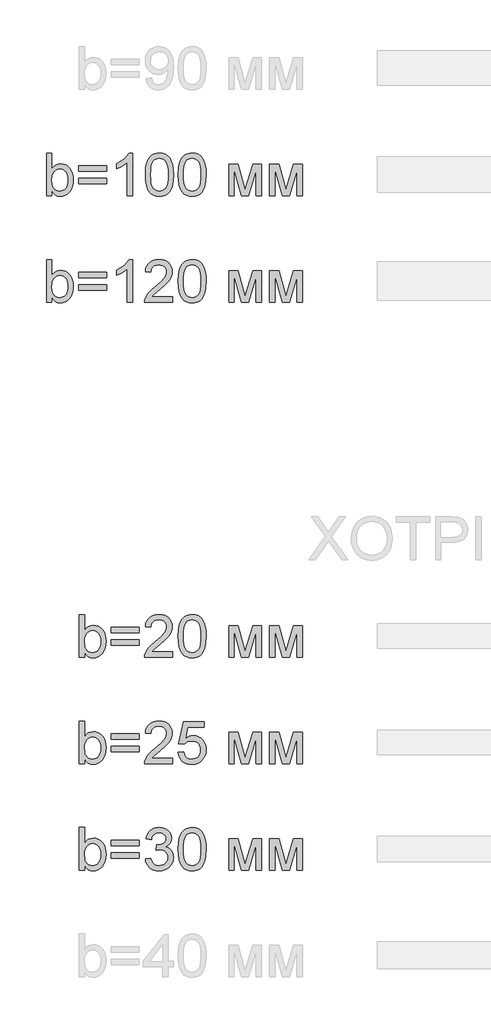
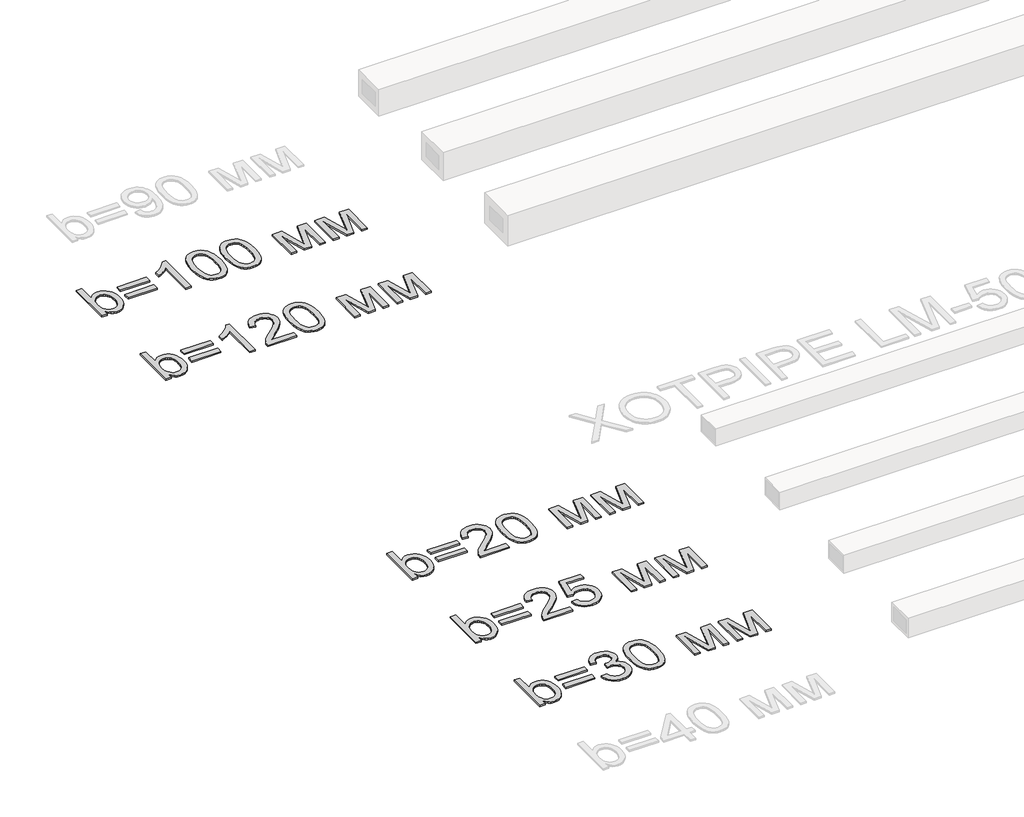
# One storey, part 78 of 86: 5 proxies.
"""IFC4 building model written with IfcOpenShell, lengths in millimetres."""

import ifcopenshell
import ifcopenshell.guid

model = None  # the IFC model being written
_history = None  # IfcOwnerHistory: only IFC2X3 demands one
_inside = {}  # id of a spatial element -> (the spatial element, [elements in it])
_under = {}  # id of a project, library or spatial element -> (it, [spatial elements below it])
_declared = {}  # id of a project -> (the project, [libraries it declares])
_typed = {}  # id of a type object -> (the type object, [elements of that type])
_made_of = {}  # id of a material, layer set ... -> (it, [elements and type objects made of it])


def new_model(schema):
    """Start an empty IFC model of exactly this schema.

    Asked for "IFC4X3", IfcOpenShell would pick the latest addendum, in which some entities
    have other attributes; the version numbers below select the first issue.
    IFC2X3 requires an IfcOwnerHistory on every rooted entity: one is made here for all.
    """
    global model, _history
    if schema == "IFC4X3":
        model = ifcopenshell.file(schema_version=(4, 3, 0, 0))
    else:
        model = ifcopenshell.file(schema=schema)
    _inside.clear()
    _under.clear()
    _declared.clear()
    _typed.clear()
    _made_of.clear()
    _history = None
    if model.schema == "IFC2X3":
        org = make("IfcOrganization", Name="unknown")
        user = make(
            "IfcPersonAndOrganization",
            ThePerson=make("IfcPerson", FamilyName="unknown"),
            TheOrganization=org,
        )
        app = make(
            "IfcApplication",
            ApplicationDeveloper=org,
            Version="unknown",
            ApplicationFullName="unknown",
            ApplicationIdentifier="unknown",
        )
        _history = make(
            "IfcOwnerHistory",
            OwningUser=user,
            OwningApplication=app,
            ChangeAction="ADDED",
            CreationDate=0,
        )
    return model


def make(cls, **values):
    """One entity of the class cls with the attributes given. An attribute that is None is left unset."""
    return model.create_entity(
        cls, **{name: value for name, value in values.items() if value is not None}
    )


def rooted(cls, **values):
    """An entity with a GlobalId (a new one), such as an element, a storey or a relation."""
    return make(cls, GlobalId=ifcopenshell.guid.new(), OwnerHistory=_history, **values)


def si_unit(unit_type, name, prefix=None):
    """IfcSIUnit, for example si_unit("LENGTHUNIT", "METRE", prefix="MILLI")."""
    return make("IfcSIUnit", UnitType=unit_type, Prefix=prefix, Name=name)


def assignment(units):
    """IfcUnitAssignment: the units of a project."""
    return None if units is None else make("IfcUnitAssignment", Units=units)


def point(xyz):
    """IfcCartesianPoint."""
    return None if xyz is None else make("IfcCartesianPoint", Coordinates=xyz)


def direction(xyz):
    """IfcDirection."""
    return None if xyz is None else make("IfcDirection", DirectionRatios=xyz)


def frame(location, z_axis=None, x_axis=None):
    """IfcAxis2Placement3D, a coordinate frame: its origin and axes. An axis left out is left unset."""
    return make(
        "IfcAxis2Placement3D",
        Location=point(location),
        Axis=direction(z_axis),
        RefDirection=direction(x_axis),
    )


def origin():
    """The frame at (0, 0, 0) with its axes left unset."""
    return frame((0.0, 0.0, 0.0))


def origin_with_axes():
    """The frame at (0, 0, 0) with the z axis (0, 0, 1) and the x axis (1, 0, 0) written out."""
    return frame((0.0, 0.0, 0.0), z_axis=(0.0, 0.0, 1.0), x_axis=(1.0, 0.0, 0.0))


def place(relative_to, where):
    """IfcLocalPlacement: puts the frame where relative to a parent placement (None: the world)."""
    return make(
        "IfcLocalPlacement", PlacementRelTo=relative_to, RelativePlacement=where
    )


def context(
    kind, dimensions, precision=None, world=None, true_north=None, identifier=None
):
    """IfcGeometricRepresentationContext, for example the 3D "Model" context."""
    return make(
        "IfcGeometricRepresentationContext",
        ContextIdentifier=identifier,
        ContextType=kind,
        CoordinateSpaceDimension=dimensions,
        Precision=precision,
        WorldCoordinateSystem=world,
        TrueNorth=true_north,
    )


def project(units=None, contexts=None):
    """IfcProject with its units and contexts."""
    return rooted(
        "IfcProject",
        Name="project",
        RepresentationContexts=contexts,
        UnitsInContext=assignment(units),
    )


def spatial(cls, under=None, at=None, **own):
    """A site, building, storey or space (cls), placed at a placement, below another one or the project."""
    s = rooted(cls, ObjectPlacement=at, **own)
    if under is not None:
        _under.setdefault(under.id(), (under, []))[1].append(s)
    return s


def polyline(points):
    """IfcPolyline through the points."""
    return make("IfcPolyline", Points=[point(p) for p in points])


def outline(outer, holes=None, kind="AREA"):
    """IfcArbitraryClosedProfileDef: a profile drawn as a closed curve; with holes, ...WithVoids."""
    if holes is None:
        return make("IfcArbitraryClosedProfileDef", ProfileType=kind, OuterCurve=outer)
    return make(
        "IfcArbitraryProfileDefWithVoids",
        ProfileType=kind,
        OuterCurve=outer,
        InnerCurves=holes,
    )


def extrude(swept, where, along, depth):
    """IfcExtrudedAreaSolid: the profile swept, set in the frame where, extruded along a direction by depth."""
    return make(
        "IfcExtrudedAreaSolid",
        SweptArea=swept,
        Position=where,
        ExtrudedDirection=direction(along),
        Depth=depth,
    )


def shape(context_of_items, identifier, shape_type, items):
    """IfcShapeRepresentation: the items that make up one representation, for example the "Body"."""
    return make(
        "IfcShapeRepresentation",
        ContextOfItems=context_of_items,
        RepresentationIdentifier=identifier,
        RepresentationType=shape_type,
        Items=items,
    )


def made_of(thing, what):
    """Note that an element or type object is made of a material, layer set ...; save() writes the relation."""
    if what is not None:
        _made_of.setdefault(what.id(), (what, []))[1].append(thing)
    return thing


def element(
    cls,
    number,
    at=None,
    inside=None,
    cuts=None,
    type_object=None,
    material=None,
    context=None,
    identifier="Body",
    shape_type=None,
    held_by="IfcProductDefinitionShape",
    body=None,
    shapes=None,
    **own,
):
    """One element of the class cls, such as IfcWall. Its Tag is "e" and its number.

    at: its placement. inside: the storey or other place that contains it. cuts: it is an
    opening in that element (IfcRelVoidsElement). A single representation is given by context,
    identifier, shape_type and body (its items); several are given by shapes. held_by: the class
    of the entity that holds the representations. save() writes the other relations.
    """
    e = rooted(cls, Tag="e%d" % number, ObjectPlacement=at, **own)
    if body is not None:
        shapes = [shape(context, identifier, shape_type, body)]
    if shapes is not None:
        e.Representation = make(held_by, Representations=shapes)
    if inside is not None:
        _inside.setdefault(inside.id(), (inside, []))[1].append(e)
    if cuts is not None:
        rooted(
            "IfcRelVoidsElement", RelatingBuildingElement=cuts, RelatedOpeningElement=e
        )
    if type_object is not None:
        _typed.setdefault(type_object.id(), (type_object, []))[1].append(e)
    return made_of(e, material)


def aggregate(whole, parts):
    """IfcRelAggregates: a whole, such as a stair, and the parts it consists of."""
    return rooted("IfcRelAggregates", RelatingObject=whole, RelatedObjects=parts)


def save(model, path):
    """Write the relations noted so far, then the file.

    IfcRelAggregates (storeys below a building ...), IfcRelContainedInSpatialStructure (elements
    in a storey), IfcRelDefinesByType, IfcRelAssociatesMaterial and IfcRelDeclares: one each for
    every whole, place, type object, material and project.
    """
    for whole, parts in _under.values():
        aggregate(whole, parts)
    for where, things in _inside.values():
        rooted(
            "IfcRelContainedInSpatialStructure",
            RelatedElements=things,
            RelatingStructure=where,
        )
    for kind, things in _typed.values():
        rooted("IfcRelDefinesByType", RelatedObjects=things, RelatingType=kind)
    for what, things in _made_of.values():
        rooted("IfcRelAssociatesMaterial", RelatedObjects=things, RelatingMaterial=what)
    for by, libraries in _declared.values():
        rooted("IfcRelDeclares", RelatingContext=by, RelatedDefinitions=libraries)
    model.write(path)


model = new_model("IFC4")

# Units and contexts
model_context = context("Model", 3, world=origin())
ifc_project = project(units=[si_unit("LENGTHUNIT", "METRE", prefix="MILLI")], contexts=[model_context])

# Site, building, storey
site = spatial("IfcSite", under=ifc_project)
building = spatial("IfcBuilding", under=site)
storey = spatial("IfcBuildingStorey", under=building, Name="Уровень 1", Elevation=0.0)

# Proxies
placement = place(None, origin())
element("IfcBuildingElementProxy", 1, Name="Текст модели 1", ObjectType="Текст модели 1", at=placement, inside=storey, context=model_context, shape_type="SweptSolid", body=[
    extrude(outline(polyline([(89309.5356698, 75669.2937088), (89234.1934372, 75669.2937088), (89234.1934372, 76272.0315697), (89309.5356698, 76272.0315697), (89309.5356698, 76048.5064694), (89334.3125222, 76080.3742473), (89362.2899479, 76103.1369457), (89393.467947, 76116.7945648), (89427.8465194, 76121.3471045), (89466.6580699, 76117.2452202), (89503.3359048, 76104.9395675), (89535.7830968, 76085.2026984), (89561.9027185, 76058.8071653), (89582.3753515, 76026.0104854), (89597.8815776, 75987.0701762), (89607.6488446, 75943.6049185), (89610.9046002, 75897.233393), (89607.5338815, 75843.7249568), (89597.4217251, 75796.6544555), (89580.5681312, 75756.0218892), (89556.9730997, 75721.8272577), (89528.6507846, 75694.7235517), (89497.6153398, 75675.3637617), (89463.8667653, 75663.7478877), (89427.405061, 75659.8759297), (89391.8952515, 75664.8699278), (89360.4137497, 75679.8519221), (89332.9605558, 75704.8219125), (89309.5356698, 75739.7798991), (89309.5356698, 75669.2937088)]), holes=[polyline([(89309.5356698, 75893.7017259), (89314.6860177, 75830.8674811), (89321.1239526, 75807.065516), (89330.1370615, 75788.3403224), (89348.3932055, 75765.0993774), (89369.6107996, 75748.4987024), (89393.7898437, 75738.5382973), (89420.9303379, 75735.2181623), (89443.4631101, 75737.6645776), (89464.4139898, 75745.0038234), (89483.7829768, 75757.2358997), (89501.5700713, 75774.3608066), (89516.4417009, 75796.3325588), (89527.0642935, 75823.105171), (89533.4378491, 75854.6786432), (89535.5623676, 75891.0529755), (89533.5252211, 75928.1170865), (89527.4137814, 75959.9940614), (89517.2280487, 75986.6839001), (89502.9680229, 76008.1866028), (89485.8201234, 76024.7320955), (89466.9707696, 76036.5503046), (89446.4199617, 76043.64123), (89424.1676995, 76046.0048719), (89401.6349273, 76043.5584566), (89380.6840477, 76036.2192108), (89361.3150606, 76023.9871344), (89343.5279661, 76006.8622276), (89328.6563365, 75985.1112046), (89318.0337439, 75959.00078), (89311.6601883, 75928.5309538), (89309.5356698, 75893.7017259)])]), origin_with_axes(), (0.0, 0.0, 1.0), 20.0),
    extrude(outline(polyline([(90081.7935541, 76017.7515346), (89686.2468329, 76017.7515346), (89686.2468329, 76093.0937672), (90081.7935541, 76093.0937672), (90081.7935541, 76017.7515346)])), origin_with_axes(), (0.0, 0.0, 1.0), 20.0),
    extrude(outline(polyline([(90081.7935541, 75838.8137322), (89686.2468329, 75838.8137322), (89686.2468329, 75914.1559648), (90081.7935541, 75914.1559648), (90081.7935541, 75838.8137322)])), origin_with_axes(), (0.0, 0.0, 1.0), 20.0),
    extrude(outline(polyline([(90449.086938, 75669.2937088), (90373.7447054, 75669.2937088), (90373.7447054, 76139.0054402), (90342.2907949, 76113.5664003), (90302.3755984, 76088.1641485), (90260.4738391, 76065.9624701), (90223.0602402, 76050.1251502), (90223.0602402, 76121.3471045), (90282.2340591, 76153.5367791), (90333.4984152, 76191.8332947), (90373.9102523, 76232.5578316), (90400.5265147, 76272.0315697), (90449.086938, 76272.0315697), (90449.086938, 75669.2937088)])), origin_with_axes(), (0.0, 0.0, 1.0), 20.0),
    extrude(outline(polyline([(90628.0247405, 75965.8065969), (90633.5613645, 76062.2836501), (90640.4821446, 76103.1967265), (90650.1712366, 76139.2261694), (90662.587254, 76170.6662845), (90677.6888099, 76197.8113772), (90695.4759043, 76220.6614476), (90715.9485374, 76239.2164957), (90739.1756868, 76253.5730906), (90765.2263306, 76263.8278012), (90794.1004687, 76269.9806276), (90825.7981011, 76272.0315697), (90872.2248089, 76267.1755274), (90913.7954744, 76252.6074004), (90948.5603229, 76228.8974058), (90974.56958, 76196.6157607), (90994.2144785, 76156.0383766), (91009.8862515, 76107.4411651), (91020.1501592, 76045.7289604), (91023.5714617, 75965.8065969), (91018.09002, 75869.8813667), (91011.2382178, 75829.106246), (91001.6456948, 75793.1227884), (90989.3262465, 75761.6688778), (90974.2936685, 75734.4823983), (90956.5479607, 75711.56335), (90936.0891233, 75692.9117329), (90912.8343826, 75678.458569), (90886.7009654, 75668.1348805), (90857.6888716, 75661.9406674), (90825.7981011, 75659.8759297), (90784.3010121, 75663.4627792), (90747.5128125, 75674.2233275), (90715.4335026, 75692.1575748), (90688.0630821, 75717.265521), (90661.7963077, 75762.6529621), (90643.0343259, 75819.2056218), (90631.7771369, 75886.9235001), (90628.0247405, 75965.8065969)]), holes=[polyline([(90703.3669731, 75965.9537497), (90705.5742651, 75900.456959), (90712.196141, 75847.440565), (90723.2326009, 75806.9045676), (90738.6836447, 75778.848967), (90757.37205, 75759.7604899), (90778.1205945, 75746.1258635), (90800.9292782, 75737.9450876), (90825.7981011, 75735.2181623), (90850.666924, 75737.9542847), (90873.4756077, 75746.1626517), (90894.2241522, 75759.8432634), (90912.9125576, 75778.9961198), (90928.3636014, 75807.0977057), (90939.4000612, 75847.624506), (90946.0219371, 75900.5765206), (90948.2292291, 75965.9537497), (90946.0955135, 76029.7168965), (90939.6943668, 76081.79979), (90929.025789, 76122.2024301), (90914.08978, 76150.9248169), (90895.7140743, 76170.9467945), (90874.7264065, 76185.248207), (90851.1267765, 76193.8290546), (90824.9151843, 76196.6893371), (90800.1751201, 76194.1693454), (90777.7527125, 76186.6093704), (90757.6479615, 76174.0094121), (90739.860867, 76156.3694704), (90723.8947884, 76125.0995008), (90712.4904466, 76082.9402242), (90705.6478415, 76029.8916405), (90703.3669731, 75965.9537497)])]), origin_with_axes(), (0.0, 0.0, 1.0), 20.0),
    extrude(outline(polyline([(91089.4959153, 75965.8065969), (91095.0325393, 76062.2836501), (91101.9533193, 76103.1967265), (91111.6424114, 76139.2261694), (91124.0584287, 76170.6662845), (91139.1599846, 76197.8113772), (91156.9470791, 76220.6614476), (91177.4197121, 76239.2164957), (91200.6468616, 76253.5730906), (91226.6975054, 76263.8278012), (91255.5716435, 76269.9806276), (91287.2692759, 76272.0315697), (91333.6959837, 76267.1755274), (91375.2666491, 76252.6074004), (91410.0314977, 76228.8974058), (91436.0407547, 76196.6157607), (91455.6856533, 76156.0383766), (91471.3574262, 76107.4411651), (91481.6213339, 76045.7289604), (91485.0426365, 75965.8065969), (91479.5611947, 75869.8813667), (91472.7093926, 75829.106246), (91463.1168696, 75793.1227884), (91450.7974212, 75761.6688778), (91435.7648432, 75734.4823983), (91418.0191355, 75711.56335), (91397.560298, 75692.9117329), (91374.3055574, 75678.458569), (91348.1721402, 75668.1348805), (91319.1600463, 75661.9406674), (91287.2692759, 75659.8759297), (91245.7721868, 75663.4627792), (91208.9839873, 75674.2233275), (91176.9046773, 75692.1575748), (91149.5342569, 75717.265521), (91123.2674824, 75762.6529621), (91104.5055007, 75819.2056218), (91093.2483116, 75886.9235001), (91089.4959153, 75965.8065969)]), holes=[polyline([(91164.8381479, 75965.9537497), (91167.0454398, 75900.456959), (91173.6673158, 75847.440565), (91184.7037756, 75806.9045676), (91200.1548194, 75778.848967), (91218.8432248, 75759.7604899), (91239.5917693, 75746.1258635), (91262.400453, 75737.9450876), (91287.2692759, 75735.2181623), (91312.1380987, 75737.9542847), (91334.9467824, 75746.1626517), (91355.695327, 75759.8432634), (91374.3837323, 75778.9961198), (91389.8347761, 75807.0977057), (91400.871236, 75847.624506), (91407.4931119, 75900.5765206), (91409.7004039, 75965.9537497), (91407.5666883, 76029.7168965), (91401.1655416, 76081.79979), (91390.4969637, 76122.2024301), (91375.5609547, 76150.9248169), (91357.185249, 76170.9467945), (91336.1975812, 76185.248207), (91312.5979512, 76193.8290546), (91286.3863591, 76196.6893371), (91261.6462949, 76194.1693454), (91239.2238873, 76186.6093704), (91219.1191363, 76174.0094121), (91201.3320418, 76156.3694704), (91185.3659632, 76125.0995008), (91173.9616213, 76082.9402242), (91167.1190162, 76029.8916405), (91164.8381479, 75965.9537497)])]), origin_with_axes(), (0.0, 0.0, 1.0), 20.0),
    extrude(outline(polyline([(91805.2471251, 76111.9293254), (91934.8887402, 76111.9293254), (92034.8054901, 75757.5853876), (92142.5213382, 76111.9293254), (92266.7182998, 76111.9293254), (92266.7182998, 75669.2937088), (92191.3760672, 75669.2937088), (92191.3760672, 76025.6977857), (92083.0716078, 75669.2937088), (91984.1849275, 75669.2937088), (91880.5893577, 76042.7675103), (91880.5893577, 75669.2937088), (91805.2471251, 75669.2937088), (91805.2471251, 76111.9293254)])), origin_with_axes(), (0.0, 0.0, 1.0), 20.0),
    extrude(outline(polyline([(92379.7316487, 76111.9293254), (92509.3732638, 76111.9293254), (92609.2900137, 75757.5853876), (92717.0058619, 76111.9293254), (92841.2028235, 76111.9293254), (92841.2028235, 75669.2937088), (92765.8605909, 75669.2937088), (92765.8605909, 76025.6977857), (92657.5561315, 75669.2937088), (92558.6694512, 75669.2937088), (92455.0738813, 76042.7675103), (92455.0738813, 75669.2937088), (92379.7316487, 75669.2937088), (92379.7316487, 76111.9293254)])), origin_with_axes(), (0.0, 0.0, 1.0), 20.0),
])
element("IfcBuildingElementProxy", 2, Name="Текст модели 1", ObjectType="Текст модели 1", at=placement, inside=storey, context=model_context, shape_type="SweptSolid", body=[
    extrude(outline(polyline([(89309.5356698, 74169.2937088), (89234.1934372, 74169.2937088), (89234.1934372, 74772.0315697), (89309.5356698, 74772.0315697), (89309.5356698, 74548.5064694), (89334.3125222, 74580.3742473), (89362.2899479, 74603.1369457), (89393.467947, 74616.7945648), (89427.8465194, 74621.3471045), (89466.6580699, 74617.2452202), (89503.3359048, 74604.9395675), (89535.7830968, 74585.2026984), (89561.9027185, 74558.8071653), (89582.3753515, 74526.0104854), (89597.8815776, 74487.0701762), (89607.6488446, 74443.6049185), (89610.9046002, 74397.233393), (89607.5338815, 74343.7249568), (89597.4217251, 74296.6544555), (89580.5681312, 74256.0218892), (89556.9730997, 74221.8272577), (89528.6507846, 74194.7235517), (89497.6153398, 74175.3637617), (89463.8667653, 74163.7478877), (89427.405061, 74159.8759297), (89391.8952515, 74164.8699278), (89360.4137497, 74179.8519221), (89332.9605558, 74204.8219125), (89309.5356698, 74239.7798991), (89309.5356698, 74169.2937088)]), holes=[polyline([(89309.5356698, 74393.7017259), (89314.6860177, 74330.8674811), (89321.1239526, 74307.065516), (89330.1370615, 74288.3403224), (89348.3932055, 74265.0993774), (89369.6107996, 74248.4987024), (89393.7898437, 74238.5382973), (89420.9303379, 74235.2181623), (89443.4631101, 74237.6645776), (89464.4139898, 74245.0038234), (89483.7829768, 74257.2358997), (89501.5700713, 74274.3608066), (89516.4417009, 74296.3325588), (89527.0642935, 74323.105171), (89533.4378491, 74354.6786432), (89535.5623676, 74391.0529755), (89533.5252211, 74428.1170865), (89527.4137814, 74459.9940614), (89517.2280487, 74486.6839001), (89502.9680229, 74508.1866028), (89485.8201234, 74524.7320955), (89466.9707696, 74536.5503046), (89446.4199617, 74543.64123), (89424.1676995, 74546.0048719), (89401.6349273, 74543.5584566), (89380.6840477, 74536.2192108), (89361.3150606, 74523.9871344), (89343.5279661, 74506.8622276), (89328.6563365, 74485.1112046), (89318.0337439, 74459.00078), (89311.6601883, 74428.5309538), (89309.5356698, 74393.7017259)])]), origin_with_axes(), (0.0, 0.0, 1.0), 20.0),
    extrude(outline(polyline([(90081.7935541, 74517.7515346), (89686.2468329, 74517.7515346), (89686.2468329, 74593.0937672), (90081.7935541, 74593.0937672), (90081.7935541, 74517.7515346)])), origin_with_axes(), (0.0, 0.0, 1.0), 20.0),
    extrude(outline(polyline([(90081.7935541, 74338.8137322), (89686.2468329, 74338.8137322), (89686.2468329, 74414.1559648), (90081.7935541, 74414.1559648), (90081.7935541, 74338.8137322)])), origin_with_axes(), (0.0, 0.0, 1.0), 20.0),
    extrude(outline(polyline([(90449.086938, 74169.2937088), (90373.7447054, 74169.2937088), (90373.7447054, 74639.0054402), (90342.2907949, 74613.5664003), (90302.3755984, 74588.1641485), (90260.4738391, 74565.9624701), (90223.0602402, 74550.1251502), (90223.0602402, 74621.3471045), (90282.2340591, 74653.5367791), (90333.4984152, 74691.8332947), (90373.9102523, 74732.5578316), (90400.5265147, 74772.0315697), (90449.086938, 74772.0315697), (90449.086938, 74169.2937088)])), origin_with_axes(), (0.0, 0.0, 1.0), 20.0),
    extrude(outline(polyline([(91014.1536826, 74244.6359414), (91014.1536826, 74169.2937088), (90618.6069614, 74169.2937088), (90620.2624304, 74195.8180007), (90626.7003653, 74221.2386465), (90645.2784061, 74261.8344247), (90672.4648855, 74301.2161923), (90711.7914708, 74342.4373698), (90766.7898291, 74388.5513779), (90848.09175, 74460.7666136), (90896.8729026, 74514.0727147), (90911.1007387, 74535.8513288), (90921.2634789, 74557.3356373), (90927.3611229, 74578.5256402), (90929.393671, 74599.4213376), (90927.4760861, 74619.0800317), (90921.7233314, 74637.1476362), (90912.1354069, 74653.624151), (90898.7123126, 74668.5095763), (90882.1990095, 74680.8382216), (90863.3404587, 74689.6443969), (90842.1366602, 74694.928102), (90818.587614, 74696.6893371), (90793.778572, 74694.9694888), (90771.5906891, 74689.8099438), (90752.0239655, 74681.2107021), (90735.0784011, 74669.1717638), (90721.3701983, 74654.0977991), (90711.5155593, 74636.3934781), (90705.5144843, 74616.0588008), (90703.3669731, 74593.0937672), (90628.0247405, 74602.5115463), (90634.5040621, 74641.4058703), (90646.2900816, 74675.3889696), (90663.3827988, 74704.4608442), (90685.7822137, 74728.6214943), (90712.9732917, 74747.6134023), (90744.4409979, 74761.1790508), (90780.1853322, 74769.31844), (90820.2062948, 74772.0315697), (90860.5859423, 74769.0149373), (90896.5234147, 74759.9650403), (90928.018712, 74744.8818785), (90955.0718342, 74723.7654519), (90976.7998646, 74698.1792592), (90992.3198862, 74669.6867986), (91001.6318992, 74638.2880704), (91004.7359036, 74603.9830743), (91001.3881774, 74567.9490329), (90991.3449989, 74532.5403908), (90973.5211163, 74496.5247435), (90946.8312775, 74458.6696862), (90904.2857248, 74413.4753831), (90838.8947001, 74355.4419984), (90752.2217021, 74282.9692453), (90718.2294057, 74244.6359414), (91014.1536826, 74244.6359414)])), origin_with_axes(), (0.0, 0.0, 1.0), 20.0),
    extrude(outline(polyline([(91089.4959153, 74465.8065969), (91095.0325393, 74562.2836501), (91101.9533193, 74603.1967265), (91111.6424114, 74639.2261694), (91124.0584287, 74670.6662845), (91139.1599846, 74697.8113772), (91156.9470791, 74720.6614476), (91177.4197121, 74739.2164957), (91200.6468616, 74753.5730906), (91226.6975054, 74763.8278012), (91255.5716435, 74769.9806276), (91287.2692759, 74772.0315697), (91333.6959837, 74767.1755274), (91375.2666491, 74752.6074004), (91410.0314977, 74728.8974058), (91436.0407547, 74696.6157607), (91455.6856533, 74656.0383766), (91471.3574262, 74607.4411651), (91481.6213339, 74545.7289604), (91485.0426365, 74465.8065969), (91479.5611947, 74369.8813667), (91472.7093926, 74329.106246), (91463.1168696, 74293.1227884), (91450.7974212, 74261.6688778), (91435.7648432, 74234.4823983), (91418.0191355, 74211.56335), (91397.560298, 74192.9117329), (91374.3055574, 74178.458569), (91348.1721402, 74168.1348805), (91319.1600463, 74161.9406674), (91287.2692759, 74159.8759297), (91245.7721868, 74163.4627792), (91208.9839873, 74174.2233275), (91176.9046773, 74192.1575748), (91149.5342569, 74217.265521), (91123.2674824, 74262.6529621), (91104.5055007, 74319.2056218), (91093.2483116, 74386.9235001), (91089.4959153, 74465.8065969)]), holes=[polyline([(91164.8381479, 74465.9537497), (91167.0454398, 74400.456959), (91173.6673158, 74347.440565), (91184.7037756, 74306.9045676), (91200.1548194, 74278.848967), (91218.8432248, 74259.7604899), (91239.5917693, 74246.1258635), (91262.400453, 74237.9450876), (91287.2692759, 74235.2181623), (91312.1380987, 74237.9542847), (91334.9467824, 74246.1626517), (91355.695327, 74259.8432634), (91374.3837323, 74278.9961198), (91389.8347761, 74307.0977057), (91400.871236, 74347.624506), (91407.4931119, 74400.5765206), (91409.7004039, 74465.9537497), (91407.5666883, 74529.7168965), (91401.1655416, 74581.79979), (91390.4969637, 74622.2024301), (91375.5609547, 74650.9248169), (91357.185249, 74670.9467945), (91336.1975812, 74685.248207), (91312.5979512, 74693.8290546), (91286.3863591, 74696.6893371), (91261.6462949, 74694.1693454), (91239.2238873, 74686.6093704), (91219.1191363, 74674.0094121), (91201.3320418, 74656.3694704), (91185.3659632, 74625.0995008), (91173.9616213, 74582.9402242), (91167.1190162, 74529.8916405), (91164.8381479, 74465.9537497)])]), origin_with_axes(), (0.0, 0.0, 1.0), 20.0),
    extrude(outline(polyline([(91805.2471251, 74611.9293254), (91934.8887402, 74611.9293254), (92034.8054901, 74257.5853876), (92142.5213382, 74611.9293254), (92266.7182998, 74611.9293254), (92266.7182998, 74169.2937088), (92191.3760672, 74169.2937088), (92191.3760672, 74525.6977857), (92083.0716078, 74169.2937088), (91984.1849275, 74169.2937088), (91880.5893577, 74542.7675103), (91880.5893577, 74169.2937088), (91805.2471251, 74169.2937088), (91805.2471251, 74611.9293254)])), origin_with_axes(), (0.0, 0.0, 1.0), 20.0),
    extrude(outline(polyline([(92379.7316487, 74611.9293254), (92509.3732638, 74611.9293254), (92609.2900137, 74257.5853876), (92717.0058619, 74611.9293254), (92841.2028235, 74611.9293254), (92841.2028235, 74169.2937088), (92765.8605909, 74169.2937088), (92765.8605909, 74525.6977857), (92657.5561315, 74169.2937088), (92558.6694512, 74169.2937088), (92455.0738813, 74542.7675103), (92455.0738813, 74169.2937088), (92379.7316487, 74169.2937088), (92379.7316487, 74611.9293254)])), origin_with_axes(), (0.0, 0.0, 1.0), 20.0),
])
element("IfcBuildingElementProxy", 3, Name="Текст модели 1", ObjectType="Текст модели 1", at=placement, inside=storey, context=model_context, shape_type="SweptSolid", body=[
    extrude(outline(polyline([(89771.0068445, 69169.2937088), (89695.6646119, 69169.2937088), (89695.6646119, 69772.0315697), (89771.0068445, 69772.0315697), (89771.0068445, 69548.5064694), (89795.7836969, 69580.3742473), (89823.7611226, 69603.1369457), (89854.9391217, 69616.7945648), (89889.3176942, 69621.3471045), (89928.1292447, 69617.2452202), (89964.8070796, 69604.9395675), (89997.2542716, 69585.2026984), (90023.3738932, 69558.8071653), (90043.8465263, 69526.0104854), (90059.3527524, 69487.0701762), (90069.1200193, 69443.6049185), (90072.375775, 69397.233393), (90069.0050562, 69343.7249568), (90058.8928999, 69296.6544555), (90042.039306, 69256.0218892), (90018.4442745, 69221.8272577), (89990.1219594, 69194.7235517), (89959.0865146, 69175.3637617), (89925.33794, 69163.7478877), (89888.8762358, 69159.8759297), (89853.3664262, 69164.8699278), (89821.8849245, 69179.8519221), (89794.4317306, 69204.8219125), (89771.0068445, 69239.7798991), (89771.0068445, 69169.2937088)]), holes=[polyline([(89771.0068445, 69393.7017259), (89776.1571925, 69330.8674811), (89782.5951274, 69307.065516), (89791.6082363, 69288.3403224), (89809.8643803, 69265.0993774), (89831.0819744, 69248.4987024), (89855.2610185, 69238.5382973), (89882.4015127, 69235.2181623), (89904.9342849, 69237.6645776), (89925.8851645, 69245.0038234), (89945.2541516, 69257.2358997), (89963.041246, 69274.3608066), (89977.9128757, 69296.3325588), (89988.5354683, 69323.105171), (89994.9090239, 69354.6786432), (89997.0335424, 69391.0529755), (89994.9963958, 69428.1170865), (89988.8849562, 69459.9940614), (89978.6992234, 69486.6839001), (89964.4391976, 69508.1866028), (89947.2912981, 69524.7320955), (89928.4419444, 69536.5503046), (89907.8911364, 69543.64123), (89885.6388742, 69546.0048719), (89863.106102, 69543.5584566), (89842.1552224, 69536.2192108), (89822.7862354, 69523.9871344), (89804.9991409, 69506.8622276), (89790.1275112, 69485.1112046), (89779.5049186, 69459.00078), (89773.1313631, 69428.5309538), (89771.0068445, 69393.7017259)])]), origin_with_axes(), (0.0, 0.0, 1.0), 20.0),
    extrude(outline(polyline([(90543.2647288, 69517.7515346), (90147.7180076, 69517.7515346), (90147.7180076, 69593.0937672), (90543.2647288, 69593.0937672), (90543.2647288, 69517.7515346)])), origin_with_axes(), (0.0, 0.0, 1.0), 20.0),
    extrude(outline(polyline([(90543.2647288, 69338.8137322), (90147.7180076, 69338.8137322), (90147.7180076, 69414.1559648), (90543.2647288, 69414.1559648), (90543.2647288, 69338.8137322)])), origin_with_axes(), (0.0, 0.0, 1.0), 20.0),
    extrude(outline(polyline([(91014.1536826, 69244.6359414), (91014.1536826, 69169.2937088), (90618.6069614, 69169.2937088), (90620.2624304, 69195.8180007), (90626.7003653, 69221.2386465), (90645.2784061, 69261.8344247), (90672.4648855, 69301.2161923), (90711.7914708, 69342.4373698), (90766.7898291, 69388.5513779), (90848.09175, 69460.7666136), (90896.8729026, 69514.0727147), (90911.1007387, 69535.8513288), (90921.2634789, 69557.3356373), (90927.3611229, 69578.5256402), (90929.393671, 69599.4213376), (90927.4760861, 69619.0800317), (90921.7233314, 69637.1476362), (90912.1354069, 69653.624151), (90898.7123126, 69668.5095763), (90882.1990095, 69680.8382216), (90863.3404587, 69689.6443969), (90842.1366602, 69694.928102), (90818.587614, 69696.6893371), (90793.778572, 69694.9694888), (90771.5906891, 69689.8099438), (90752.0239655, 69681.2107021), (90735.0784011, 69669.1717638), (90721.3701983, 69654.0977991), (90711.5155593, 69636.3934781), (90705.5144843, 69616.0588008), (90703.3669731, 69593.0937672), (90628.0247405, 69602.5115463), (90634.5040621, 69641.4058703), (90646.2900816, 69675.3889696), (90663.3827988, 69704.4608442), (90685.7822137, 69728.6214943), (90712.9732917, 69747.6134023), (90744.4409979, 69761.1790508), (90780.1853322, 69769.31844), (90820.2062948, 69772.0315697), (90860.5859423, 69769.0149373), (90896.5234147, 69759.9650403), (90928.018712, 69744.8818785), (90955.0718342, 69723.7654519), (90976.7998646, 69698.1792592), (90992.3198862, 69669.6867986), (91001.6318992, 69638.2880704), (91004.7359036, 69603.9830743), (91001.3881774, 69567.9490329), (90991.3449989, 69532.5403908), (90973.5211163, 69496.5247435), (90946.8312775, 69458.6696862), (90904.2857248, 69413.4753831), (90838.8947001, 69355.4419984), (90752.2217021, 69282.9692453), (90718.2294057, 69244.6359414), (91014.1536826, 69244.6359414)])), origin_with_axes(), (0.0, 0.0, 1.0), 20.0),
    extrude(outline(polyline([(91089.4959153, 69465.8065969), (91095.0325393, 69562.2836501), (91101.9533193, 69603.1967265), (91111.6424114, 69639.2261694), (91124.0584287, 69670.6662845), (91139.1599846, 69697.8113772), (91156.9470791, 69720.6614476), (91177.4197121, 69739.2164957), (91200.6468616, 69753.5730906), (91226.6975054, 69763.8278012), (91255.5716435, 69769.9806276), (91287.2692759, 69772.0315697), (91333.6959837, 69767.1755274), (91375.2666491, 69752.6074004), (91410.0314977, 69728.8974058), (91436.0407547, 69696.6157607), (91455.6856533, 69656.0383766), (91471.3574262, 69607.4411651), (91481.6213339, 69545.7289604), (91485.0426365, 69465.8065969), (91479.5611947, 69369.8813667), (91472.7093926, 69329.106246), (91463.1168696, 69293.1227884), (91450.7974212, 69261.6688778), (91435.7648432, 69234.4823983), (91418.0191355, 69211.56335), (91397.560298, 69192.9117329), (91374.3055574, 69178.458569), (91348.1721402, 69168.1348805), (91319.1600463, 69161.9406674), (91287.2692759, 69159.8759297), (91245.7721868, 69163.4627792), (91208.9839873, 69174.2233275), (91176.9046773, 69192.1575748), (91149.5342569, 69217.265521), (91123.2674824, 69262.6529621), (91104.5055007, 69319.2056218), (91093.2483116, 69386.9235001), (91089.4959153, 69465.8065969)]), holes=[polyline([(91164.8381479, 69465.9537497), (91167.0454398, 69400.456959), (91173.6673158, 69347.440565), (91184.7037756, 69306.9045676), (91200.1548194, 69278.848967), (91218.8432248, 69259.7604899), (91239.5917693, 69246.1258635), (91262.400453, 69237.9450876), (91287.2692759, 69235.2181623), (91312.1380987, 69237.9542847), (91334.9467824, 69246.1626517), (91355.695327, 69259.8432634), (91374.3837323, 69278.9961198), (91389.8347761, 69307.0977057), (91400.871236, 69347.624506), (91407.4931119, 69400.5765206), (91409.7004039, 69465.9537497), (91407.5666883, 69529.7168965), (91401.1655416, 69581.79979), (91390.4969637, 69622.2024301), (91375.5609547, 69650.9248169), (91357.185249, 69670.9467945), (91336.1975812, 69685.248207), (91312.5979512, 69693.8290546), (91286.3863591, 69696.6893371), (91261.6462949, 69694.1693454), (91239.2238873, 69686.6093704), (91219.1191363, 69674.0094121), (91201.3320418, 69656.3694704), (91185.3659632, 69625.0995008), (91173.9616213, 69582.9402242), (91167.1190162, 69529.8916405), (91164.8381479, 69465.9537497)])]), origin_with_axes(), (0.0, 0.0, 1.0), 20.0),
    extrude(outline(polyline([(91805.2471251, 69611.9293254), (91934.8887402, 69611.9293254), (92034.8054901, 69257.5853876), (92142.5213382, 69611.9293254), (92266.7182998, 69611.9293254), (92266.7182998, 69169.2937088), (92191.3760672, 69169.2937088), (92191.3760672, 69525.6977857), (92083.0716078, 69169.2937088), (91984.1849275, 69169.2937088), (91880.5893577, 69542.7675103), (91880.5893577, 69169.2937088), (91805.2471251, 69169.2937088), (91805.2471251, 69611.9293254)])), origin_with_axes(), (0.0, 0.0, 1.0), 20.0),
    extrude(outline(polyline([(92379.7316487, 69611.9293254), (92509.3732638, 69611.9293254), (92609.2900137, 69257.5853876), (92717.0058619, 69611.9293254), (92841.2028235, 69611.9293254), (92841.2028235, 69169.2937088), (92765.8605909, 69169.2937088), (92765.8605909, 69525.6977857), (92657.5561315, 69169.2937088), (92558.6694512, 69169.2937088), (92455.0738813, 69542.7675103), (92455.0738813, 69169.2937088), (92379.7316487, 69169.2937088), (92379.7316487, 69611.9293254)])), origin_with_axes(), (0.0, 0.0, 1.0), 20.0),
])
element("IfcBuildingElementProxy", 4, Name="Текст модели 1", ObjectType="Текст модели 1", at=placement, inside=storey, context=model_context, shape_type="SweptSolid", body=[
    extrude(outline(polyline([(89771.0068445, 67669.2937088), (89695.6646119, 67669.2937088), (89695.6646119, 68272.0315697), (89771.0068445, 68272.0315697), (89771.0068445, 68048.5064694), (89795.7836969, 68080.3742473), (89823.7611226, 68103.1369457), (89854.9391217, 68116.7945648), (89889.3176942, 68121.3471045), (89928.1292447, 68117.2452202), (89964.8070796, 68104.9395675), (89997.2542716, 68085.2026984), (90023.3738932, 68058.8071653), (90043.8465263, 68026.0104854), (90059.3527524, 67987.0701762), (90069.1200193, 67943.6049185), (90072.375775, 67897.233393), (90069.0050562, 67843.7249568), (90058.8928999, 67796.6544555), (90042.039306, 67756.0218892), (90018.4442745, 67721.8272577), (89990.1219594, 67694.7235517), (89959.0865146, 67675.3637617), (89925.33794, 67663.7478877), (89888.8762358, 67659.8759297), (89853.3664262, 67664.8699278), (89821.8849245, 67679.8519221), (89794.4317306, 67704.8219125), (89771.0068445, 67739.7798991), (89771.0068445, 67669.2937088)]), holes=[polyline([(89771.0068445, 67893.7017259), (89776.1571925, 67830.8674811), (89782.5951274, 67807.065516), (89791.6082363, 67788.3403224), (89809.8643803, 67765.0993774), (89831.0819744, 67748.4987024), (89855.2610185, 67738.5382973), (89882.4015127, 67735.2181623), (89904.9342849, 67737.6645776), (89925.8851645, 67745.0038234), (89945.2541516, 67757.2358997), (89963.041246, 67774.3608066), (89977.9128757, 67796.3325588), (89988.5354683, 67823.105171), (89994.9090239, 67854.6786432), (89997.0335424, 67891.0529755), (89994.9963958, 67928.1170865), (89988.8849562, 67959.9940614), (89978.6992234, 67986.6839001), (89964.4391976, 68008.1866028), (89947.2912981, 68024.7320955), (89928.4419444, 68036.5503046), (89907.8911364, 68043.64123), (89885.6388742, 68046.0048719), (89863.106102, 68043.5584566), (89842.1552224, 68036.2192108), (89822.7862354, 68023.9871344), (89804.9991409, 68006.8622276), (89790.1275112, 67985.1112046), (89779.5049186, 67959.00078), (89773.1313631, 67928.5309538), (89771.0068445, 67893.7017259)])]), origin_with_axes(), (0.0, 0.0, 1.0), 20.0),
    extrude(outline(polyline([(90543.2647288, 68017.7515346), (90147.7180076, 68017.7515346), (90147.7180076, 68093.0937672), (90543.2647288, 68093.0937672), (90543.2647288, 68017.7515346)])), origin_with_axes(), (0.0, 0.0, 1.0), 20.0),
    extrude(outline(polyline([(90543.2647288, 67838.8137322), (90147.7180076, 67838.8137322), (90147.7180076, 67914.1559648), (90543.2647288, 67914.1559648), (90543.2647288, 67838.8137322)])), origin_with_axes(), (0.0, 0.0, 1.0), 20.0),
    extrude(outline(polyline([(91014.1536826, 67744.6359414), (91014.1536826, 67669.2937088), (90618.6069614, 67669.2937088), (90620.2624304, 67695.8180007), (90626.7003653, 67721.2386465), (90645.2784061, 67761.8344247), (90672.4648855, 67801.2161923), (90711.7914708, 67842.4373698), (90766.7898291, 67888.5513779), (90848.09175, 67960.7666136), (90896.8729026, 68014.0727147), (90911.1007387, 68035.8513288), (90921.2634789, 68057.3356373), (90927.3611229, 68078.5256402), (90929.393671, 68099.4213376), (90927.4760861, 68119.0800317), (90921.7233314, 68137.1476362), (90912.1354069, 68153.624151), (90898.7123126, 68168.5095763), (90882.1990095, 68180.8382216), (90863.3404587, 68189.6443969), (90842.1366602, 68194.928102), (90818.587614, 68196.6893371), (90793.778572, 68194.9694888), (90771.5906891, 68189.8099438), (90752.0239655, 68181.2107021), (90735.0784011, 68169.1717638), (90721.3701983, 68154.0977991), (90711.5155593, 68136.3934781), (90705.5144843, 68116.0588008), (90703.3669731, 68093.0937672), (90628.0247405, 68102.5115463), (90634.5040621, 68141.4058703), (90646.2900816, 68175.3889696), (90663.3827988, 68204.4608442), (90685.7822137, 68228.6214943), (90712.9732917, 68247.6134023), (90744.4409979, 68261.1790508), (90780.1853322, 68269.31844), (90820.2062948, 68272.0315697), (90860.5859423, 68269.0149373), (90896.5234147, 68259.9650403), (90928.018712, 68244.8818785), (90955.0718342, 68223.7654519), (90976.7998646, 68198.1792592), (90992.3198862, 68169.6867986), (91001.6318992, 68138.2880704), (91004.7359036, 68103.9830743), (91001.3881774, 68067.9490329), (90991.3449989, 68032.5403908), (90973.5211163, 67996.5247435), (90946.8312775, 67958.6696862), (90904.2857248, 67913.4753831), (90838.8947001, 67855.4419984), (90752.2217021, 67782.9692453), (90718.2294057, 67744.6359414), (91014.1536826, 67744.6359414)])), origin_with_axes(), (0.0, 0.0, 1.0), 20.0),
    extrude(outline(polyline([(91089.4959153, 67829.3959531), (91164.8381479, 67838.8137322), (91170.4667424, 67814.5933013), (91178.6705109, 67793.5826409), (91189.4494533, 67775.7817508), (91202.8035698, 67761.1906312), (91218.705269, 67749.8276761), (91237.1269599, 67741.7112795), (91258.0686425, 67736.8414416), (91281.5303167, 67735.2181623), (91310.2251124, 67737.4760381), (91335.5353936, 67744.2496653), (91357.4611605, 67755.539044), (91376.0024131, 67771.3441743), (91390.7452841, 67790.8833067), (91401.2759062, 67813.3746922), (91407.5942794, 67838.8183307), (91409.7004039, 67867.2142222), (91407.7276367, 67894.0512138), (91401.8093351, 67917.9083611), (91391.9454991, 67938.7856644), (91378.1361287, 67956.6831234), (91360.3352386, 67971.0397183), (91338.4968437, 67981.2944289), (91312.6209439, 67987.4472553), (91282.7075391, 67989.4981974), (91246.1584629, 67986.2240476), (91216.5623564, 67976.4015984), (91192.9259382, 67961.3552248), (91174.2559269, 67942.409302), (91098.9136943, 67951.8270811), (91164.8381479, 68262.6137906), (91456.7892992, 68262.6137906), (91456.7892992, 68187.271558), (91225.7594063, 68187.271558), (91193.5329435, 68021.2832018), (91220.1216147, 68040.3394891), (91247.3540794, 68053.951123), (91275.2303376, 68062.1181032), (91303.7503892, 68064.84043), (91340.4420197, 68061.4651127), (91374.144609, 68051.3391608), (91404.8581571, 68034.4625743), (91432.582664, 68010.8353531), (91455.5339019, 67981.9014342), (91471.9276433, 67949.1047543), (91481.7638882, 67912.4453135), (91485.0426365, 67871.9231117), (91482.0903835, 67832.8908321), (91473.2336244, 67796.5808791), (91458.4723594, 67762.993253), (91437.8065883, 67732.1279536), (91406.4998305, 67700.5176931), (91369.9691484, 67677.9389357), (91328.2145419, 67664.3916812), (91281.2360111, 67659.8759297), (91242.3554828, 67662.777599), (91207.2365478, 67671.4826067), (91175.8792062, 67685.9909529), (91148.2834581, 67706.3026375), (91125.3230231, 67731.4059852), (91107.8716209, 67760.2893203), (91095.9292516, 67792.952643), (91089.4959153, 67829.3959531)])), origin_with_axes(), (0.0, 0.0, 1.0), 20.0),
    extrude(outline(polyline([(91805.2471251, 68111.9293254), (91934.8887402, 68111.9293254), (92034.8054901, 67757.5853876), (92142.5213382, 68111.9293254), (92266.7182998, 68111.9293254), (92266.7182998, 67669.2937088), (92191.3760672, 67669.2937088), (92191.3760672, 68025.6977857), (92083.0716078, 67669.2937088), (91984.1849275, 67669.2937088), (91880.5893577, 68042.7675103), (91880.5893577, 67669.2937088), (91805.2471251, 67669.2937088), (91805.2471251, 68111.9293254)])), origin_with_axes(), (0.0, 0.0, 1.0), 20.0),
    extrude(outline(polyline([(92379.7316487, 68111.9293254), (92509.3732638, 68111.9293254), (92609.2900137, 67757.5853876), (92717.0058619, 68111.9293254), (92841.2028235, 68111.9293254), (92841.2028235, 67669.2937088), (92765.8605909, 67669.2937088), (92765.8605909, 68025.6977857), (92657.5561315, 67669.2937088), (92558.6694512, 67669.2937088), (92455.0738813, 68042.7675103), (92455.0738813, 67669.2937088), (92379.7316487, 67669.2937088), (92379.7316487, 68111.9293254)])), origin_with_axes(), (0.0, 0.0, 1.0), 20.0),
])
element("IfcBuildingElementProxy", 5, Name="Текст модели 1", ObjectType="Текст модели 1", at=placement, inside=storey, context=model_context, shape_type="SweptSolid", body=[
    extrude(outline(polyline([(89771.0068445, 66169.2937088), (89695.6646119, 66169.2937088), (89695.6646119, 66772.0315697), (89771.0068445, 66772.0315697), (89771.0068445, 66548.5064694), (89795.7836969, 66580.3742473), (89823.7611226, 66603.1369457), (89854.9391217, 66616.7945648), (89889.3176942, 66621.3471045), (89928.1292447, 66617.2452202), (89964.8070796, 66604.9395675), (89997.2542716, 66585.2026984), (90023.3738932, 66558.8071653), (90043.8465263, 66526.0104854), (90059.3527524, 66487.0701762), (90069.1200193, 66443.6049185), (90072.375775, 66397.233393), (90069.0050562, 66343.7249568), (90058.8928999, 66296.6544555), (90042.039306, 66256.0218892), (90018.4442745, 66221.8272577), (89990.1219594, 66194.7235517), (89959.0865146, 66175.3637617), (89925.33794, 66163.7478877), (89888.8762358, 66159.8759297), (89853.3664262, 66164.8699278), (89821.8849245, 66179.8519221), (89794.4317306, 66204.8219125), (89771.0068445, 66239.7798991), (89771.0068445, 66169.2937088)]), holes=[polyline([(89771.0068445, 66393.7017259), (89776.1571925, 66330.8674811), (89782.5951274, 66307.065516), (89791.6082363, 66288.3403224), (89809.8643803, 66265.0993774), (89831.0819744, 66248.4987024), (89855.2610185, 66238.5382973), (89882.4015127, 66235.2181623), (89904.9342849, 66237.6645776), (89925.8851645, 66245.0038234), (89945.2541516, 66257.2358997), (89963.041246, 66274.3608066), (89977.9128757, 66296.3325588), (89988.5354683, 66323.105171), (89994.9090239, 66354.6786432), (89997.0335424, 66391.0529755), (89994.9963958, 66428.1170865), (89988.8849562, 66459.9940614), (89978.6992234, 66486.6839001), (89964.4391976, 66508.1866028), (89947.2912981, 66524.7320955), (89928.4419444, 66536.5503046), (89907.8911364, 66543.64123), (89885.6388742, 66546.0048719), (89863.106102, 66543.5584566), (89842.1552224, 66536.2192108), (89822.7862354, 66523.9871344), (89804.9991409, 66506.8622276), (89790.1275112, 66485.1112046), (89779.5049186, 66459.00078), (89773.1313631, 66428.5309538), (89771.0068445, 66393.7017259)])]), origin_with_axes(), (0.0, 0.0, 1.0), 20.0),
    extrude(outline(polyline([(90543.2647288, 66517.7515346), (90147.7180076, 66517.7515346), (90147.7180076, 66593.0937672), (90543.2647288, 66593.0937672), (90543.2647288, 66517.7515346)])), origin_with_axes(), (0.0, 0.0, 1.0), 20.0),
    extrude(outline(polyline([(90543.2647288, 66338.8137322), (90147.7180076, 66338.8137322), (90147.7180076, 66414.1559648), (90543.2647288, 66414.1559648), (90543.2647288, 66338.8137322)])), origin_with_axes(), (0.0, 0.0, 1.0), 20.0),
    extrude(outline(polyline([(90628.0247405, 66329.3959531), (90703.3669731, 66338.8137322), (90720.2343626, 66291.4673194), (90731.6065148, 66273.5606633), (90744.9376386, 66259.498374), (90760.5312366, 66248.8757814), (90778.6908116, 66241.2882153), (90799.4163635, 66236.7356756), (90822.7078924, 66235.2181623), (90850.0047364, 66237.3058927), (90874.3585245, 66243.5690836), (90895.7692566, 66254.0077352), (90914.2369328, 66268.6218475), (90929.1085624, 66286.3169715), (90939.731155, 66305.9986582), (90946.1047106, 66327.6669077), (90948.2292291, 66351.32172), (90946.1231047, 66373.8498937), (90939.8047314, 66394.3455193), (90929.2741093, 66412.808597), (90914.5312383, 66429.2391266), (90896.5418088, 66442.7266002), (90876.2715108, 66452.36051), (90853.7203445, 66458.1408558), (90828.8883099, 66460.0676378), (90805.0863448, 66458.0074986), (90776.0604554, 66451.8270811), (90784.4481649, 66527.1693137), (90796.5146943, 66526.2863969), (90841.6538151, 66531.6942622), (90882.01047, 66547.9178582), (90898.6203421, 66560.1867228), (90910.4845364, 66575.3618551), (90917.603053, 66593.4432551), (90919.9758919, 66614.430923), (90918.2560435, 66631.4684579), (90913.0964986, 66646.9700854), (90904.4972569, 66660.9358057), (90892.4583186, 66673.3656186), (90877.7062506, 66683.5697454), (90860.9676198, 66690.8584075), (90821.53067, 66696.6893371), (90800.8740959, 66695.2178091), (90782.0201437, 66690.8032252), (90764.9688132, 66683.4455853), (90749.7201045, 66673.1448894), (90736.6510966, 66659.9011376), (90726.1388686, 66643.7143298), (90718.1834205, 66624.584466), (90712.7847522, 66602.5115463), (90637.4425196, 66611.9293254), (90646.372855, 66647.8989875), (90659.6258039, 66679.5828243), (90677.2013662, 66706.9808359), (90699.099542, 66730.0930222), (90724.6305524, 66748.4411368), (90753.1046189, 66761.5469328), (90784.5217413, 66769.4104105), (90818.8819196, 66772.0315697), (90866.2467265, 66766.8628277), (90909.7487724, 66751.3566016), (90946.4266073, 66726.8924489), (90973.3187812, 66694.8499271), (90989.8182887, 66657.9329689), (90995.3181245, 66618.8455069), (90990.0942002, 66582.4251894), (90974.4224272, 66549.3893862), (90948.5235347, 66521.2464136), (90912.618252, 66499.5045877), (90937.7261981, 66491.6503071), (90959.7807238, 66480.4483003), (90978.7818288, 66465.8985674), (90994.7295133, 66448.0011083), (91007.3478657, 66427.1973815), (91016.3609746, 66403.9288453), (91021.7688399, 66378.1954998), (91023.5714617, 66349.9973448), (91019.9662182, 66311.7744055), (91009.1504875, 66276.5680986), (90991.1242697, 66244.378424), (90965.8875649, 66215.2053818), (90935.1418271, 66190.9987465), (90900.5885107, 66173.7082927), (90862.2276157, 66163.3340205), (90820.059142, 66159.8759297), (90781.9465673, 66162.8281827), (90747.2185069, 66171.6849418), (90715.874961, 66186.4462068), (90687.9159293, 66207.1119779), (90664.4726492, 66232.4682444), (90646.6763577, 66261.3009958), (90634.5270548, 66293.610232), (90628.0247405, 66329.3959531)])), origin_with_axes(), (0.0, 0.0, 1.0), 20.0),
    extrude(outline(polyline([(91089.4959153, 66465.8065969), (91095.0325393, 66562.2836501), (91101.9533193, 66603.1967265), (91111.6424114, 66639.2261694), (91124.0584287, 66670.6662845), (91139.1599846, 66697.8113772), (91156.9470791, 66720.6614476), (91177.4197121, 66739.2164957), (91200.6468616, 66753.5730906), (91226.6975054, 66763.8278012), (91255.5716435, 66769.9806276), (91287.2692759, 66772.0315697), (91333.6959837, 66767.1755274), (91375.2666491, 66752.6074004), (91410.0314977, 66728.8974058), (91436.0407547, 66696.6157607), (91455.6856533, 66656.0383766), (91471.3574262, 66607.4411651), (91481.6213339, 66545.7289604), (91485.0426365, 66465.8065969), (91479.5611947, 66369.8813667), (91472.7093926, 66329.106246), (91463.1168696, 66293.1227884), (91450.7974212, 66261.6688778), (91435.7648432, 66234.4823983), (91418.0191355, 66211.56335), (91397.560298, 66192.9117329), (91374.3055574, 66178.458569), (91348.1721402, 66168.1348805), (91319.1600463, 66161.9406674), (91287.2692759, 66159.8759297), (91245.7721868, 66163.4627792), (91208.9839873, 66174.2233275), (91176.9046773, 66192.1575748), (91149.5342569, 66217.265521), (91123.2674824, 66262.6529621), (91104.5055007, 66319.2056218), (91093.2483116, 66386.9235001), (91089.4959153, 66465.8065969)]), holes=[polyline([(91164.8381479, 66465.9537497), (91167.0454398, 66400.456959), (91173.6673158, 66347.440565), (91184.7037756, 66306.9045676), (91200.1548194, 66278.848967), (91218.8432248, 66259.7604899), (91239.5917693, 66246.1258635), (91262.400453, 66237.9450876), (91287.2692759, 66235.2181623), (91312.1380987, 66237.9542847), (91334.9467824, 66246.1626517), (91355.695327, 66259.8432634), (91374.3837323, 66278.9961198), (91389.8347761, 66307.0977057), (91400.871236, 66347.624506), (91407.4931119, 66400.5765206), (91409.7004039, 66465.9537497), (91407.5666883, 66529.7168965), (91401.1655416, 66581.79979), (91390.4969637, 66622.2024301), (91375.5609547, 66650.9248169), (91357.185249, 66670.9467945), (91336.1975812, 66685.248207), (91312.5979512, 66693.8290546), (91286.3863591, 66696.6893371), (91261.6462949, 66694.1693454), (91239.2238873, 66686.6093704), (91219.1191363, 66674.0094121), (91201.3320418, 66656.3694704), (91185.3659632, 66625.0995008), (91173.9616213, 66582.9402242), (91167.1190162, 66529.8916405), (91164.8381479, 66465.9537497)])]), origin_with_axes(), (0.0, 0.0, 1.0), 20.0),
    extrude(outline(polyline([(91805.2471251, 66611.9293254), (91934.8887402, 66611.9293254), (92034.8054901, 66257.5853876), (92142.5213382, 66611.9293254), (92266.7182998, 66611.9293254), (92266.7182998, 66169.2937088), (92191.3760672, 66169.2937088), (92191.3760672, 66525.6977857), (92083.0716078, 66169.2937088), (91984.1849275, 66169.2937088), (91880.5893577, 66542.7675103), (91880.5893577, 66169.2937088), (91805.2471251, 66169.2937088), (91805.2471251, 66611.9293254)])), origin_with_axes(), (0.0, 0.0, 1.0), 20.0),
    extrude(outline(polyline([(92379.7316487, 66611.9293254), (92509.3732638, 66611.9293254), (92609.2900137, 66257.5853876), (92717.0058619, 66611.9293254), (92841.2028235, 66611.9293254), (92841.2028235, 66169.2937088), (92765.8605909, 66169.2937088), (92765.8605909, 66525.6977857), (92657.5561315, 66169.2937088), (92558.6694512, 66169.2937088), (92455.0738813, 66542.7675103), (92455.0738813, 66169.2937088), (92379.7316487, 66169.2937088), (92379.7316487, 66611.9293254)])), origin_with_axes(), (0.0, 0.0, 1.0), 20.0),
])

save(model, "model.ifc")
